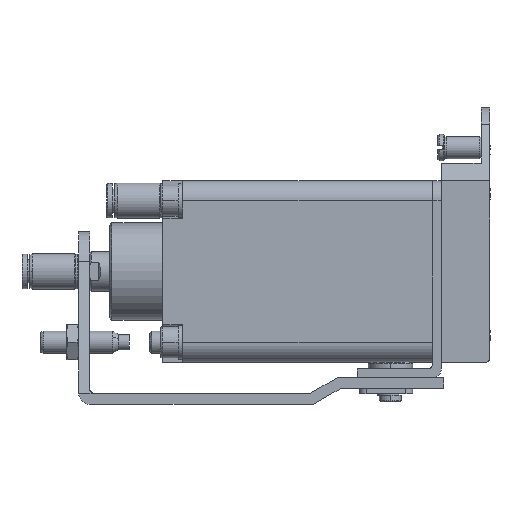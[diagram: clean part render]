
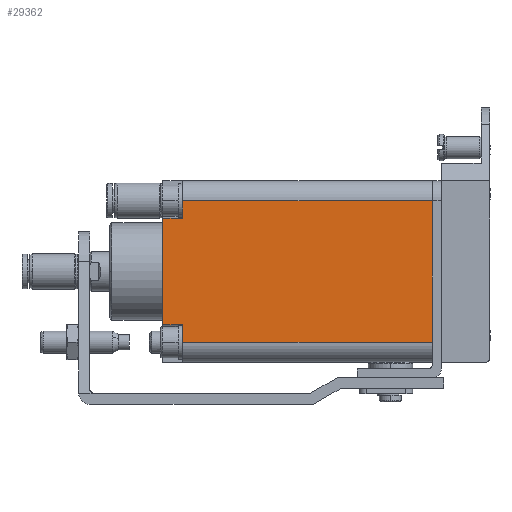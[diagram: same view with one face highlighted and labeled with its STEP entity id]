
A CAD part, left-side view. The second image highlights one B-rep face of the part: STEP entity #29362.
In plain terms, the highlighted planar face has unit normal (-1, 0, 0).
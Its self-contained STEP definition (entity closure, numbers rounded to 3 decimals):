
#771 = LINE ( 'NONE', #14785, #6765 ) ;
#1133 = ORIENTED_EDGE ( 'NONE', *, *, #21494, .F. ) ;
#1227 = CARTESIAN_POINT ( 'NONE',  ( -16.5, 56.5, 12. ) ) ;
#1320 = VECTOR ( 'NONE', #5001, 1000. ) ;
#1463 = LINE ( 'NONE', #6083, #20902 ) ;
#1951 = EDGE_CURVE ( 'NONE', #22121, #18015, #18659, .T. ) ;
#2175 = DIRECTION ( 'NONE',  ( 0., -1., 0. ) ) ;
#3088 = VERTEX_POINT ( 'NONE', #3309 ) ;
#3309 = CARTESIAN_POINT ( 'NONE',  ( -16.5, 56.5, -12. ) ) ;
#5001 = DIRECTION ( 'NONE',  ( 0., 0., -1. ) ) ;
#5669 = CARTESIAN_POINT ( 'NONE',  ( -16.5, 61., 12. ) ) ;
#5960 = CARTESIAN_POINT ( 'NONE',  ( -16.5, -5.05, -19.2 ) ) ;
#6083 = CARTESIAN_POINT ( 'NONE',  ( -16.5, 25.25, 16. ) ) ;
#6765 = VECTOR ( 'NONE', #2175, 1000. ) ;
#6955 = VERTEX_POINT ( 'NONE', #23997 ) ;
#7222 = AXIS2_PLACEMENT_3D ( 'NONE', #5960, #23640, #8497 ) ;
#8365 = ORIENTED_EDGE ( 'NONE', *, *, #32833, .T. ) ;
#8399 = PLANE ( 'NONE',  #7222 ) ;
#8497 = DIRECTION ( 'NONE',  ( 0., 0., 1. ) ) ;
#8633 = DIRECTION ( 'NONE',  ( 0., -1., 0. ) ) ;
#8654 = ORIENTED_EDGE ( 'NONE', *, *, #28333, .T. ) ;
#8913 = LINE ( 'NONE', #27779, #1320 ) ;
#8992 = VECTOR ( 'NONE', #10774, 1000. ) ;
#9117 = EDGE_LOOP ( 'NONE', ( #8654, #1133, #26778, #22013, #23967, #24985, #8365, #23545 ) ) ;
#9443 = CARTESIAN_POINT ( 'NONE',  ( -16.5, 55.75, 12. ) ) ;
#9875 = VERTEX_POINT ( 'NONE', #1227 ) ;
#10774 = DIRECTION ( 'NONE',  ( 0., 0., 1. ) ) ;
#11986 = CARTESIAN_POINT ( 'NONE',  ( -16.5, 0., 16. ) ) ;
#12745 = VECTOR ( 'NONE', #13327, 1000. ) ;
#13327 = DIRECTION ( 'NONE',  ( 0., 0., -1. ) ) ;
#14238 = CARTESIAN_POINT ( 'NONE',  ( -16.5, 25.25, -16. ) ) ;
#14461 = VERTEX_POINT ( 'NONE', #11986 ) ;
#14477 = DIRECTION ( 'NONE',  ( 0., 1., 0. ) ) ;
#14670 = EDGE_CURVE ( 'NONE', #24289, #6955, #8913, .T. ) ;
#14785 = CARTESIAN_POINT ( 'NONE',  ( -16.5, 55.75, -12. ) ) ;
#15674 = LINE ( 'NONE', #28462, #8992 ) ;
#16225 = CARTESIAN_POINT ( 'NONE',  ( -16.5, 56.5, 16. ) ) ;
#16518 = VERTEX_POINT ( 'NONE', #16225 ) ;
#17578 = VECTOR ( 'NONE', #18281, 1000. ) ;
#17842 = VECTOR ( 'NONE', #21874, 1000. ) ;
#18015 = VERTEX_POINT ( 'NONE', #30976 ) ;
#18281 = DIRECTION ( 'NONE',  ( 0., 0., -1. ) ) ;
#18368 = LINE ( 'NONE', #25812, #17578 ) ;
#18659 = LINE ( 'NONE', #14238, #17842 ) ;
#19350 = EDGE_CURVE ( 'NONE', #9875, #24289, #24263, .T. ) ;
#19509 = LINE ( 'NONE', #30985, #12745 ) ;
#20902 = VECTOR ( 'NONE', #8633, 1000. ) ;
#21494 = EDGE_CURVE ( 'NONE', #16518, #14461, #1463, .T. ) ;
#21874 = DIRECTION ( 'NONE',  ( 0., -1., 0. ) ) ;
#22013 = ORIENTED_EDGE ( 'NONE', *, *, #19350, .T. ) ;
#22121 = VERTEX_POINT ( 'NONE', #30426 ) ;
#23406 = EDGE_CURVE ( 'NONE', #6955, #3088, #771, .T. ) ;
#23466 = VECTOR ( 'NONE', #14477, 1000. ) ;
#23545 = ORIENTED_EDGE ( 'NONE', *, *, #1951, .T. ) ;
#23640 = DIRECTION ( 'NONE',  ( -1., 0., 0. ) ) ;
#23967 = ORIENTED_EDGE ( 'NONE', *, *, #14670, .T. ) ;
#23997 = CARTESIAN_POINT ( 'NONE',  ( -16.5, 61., -12. ) ) ;
#24263 = LINE ( 'NONE', #9443, #23466 ) ;
#24289 = VERTEX_POINT ( 'NONE', #5669 ) ;
#24308 = FACE_OUTER_BOUND ( 'NONE', #9117, .T. ) ;
#24985 = ORIENTED_EDGE ( 'NONE', *, *, #23406, .T. ) ;
#25812 = CARTESIAN_POINT ( 'NONE',  ( -16.5, 56.5, 0. ) ) ;
#26778 = ORIENTED_EDGE ( 'NONE', *, *, #31947, .T. ) ;
#27779 = CARTESIAN_POINT ( 'NONE',  ( -16.5, 61., 0. ) ) ;
#28333 = EDGE_CURVE ( 'NONE', #18015, #14461, #15674, .T. ) ;
#28462 = CARTESIAN_POINT ( 'NONE',  ( -16.5, 0., 0. ) ) ;
#29362 = ADVANCED_FACE ( 'NONE', ( #24308 ), #8399, .T. ) ;
#30426 = CARTESIAN_POINT ( 'NONE',  ( -16.5, 56.5, -16. ) ) ;
#30976 = CARTESIAN_POINT ( 'NONE',  ( -16.5, 0., -16. ) ) ;
#30985 = CARTESIAN_POINT ( 'NONE',  ( -16.5, 56.5, 0. ) ) ;
#31947 = EDGE_CURVE ( 'NONE', #16518, #9875, #18368, .T. ) ;
#32833 = EDGE_CURVE ( 'NONE', #3088, #22121, #19509, .T. ) ;
